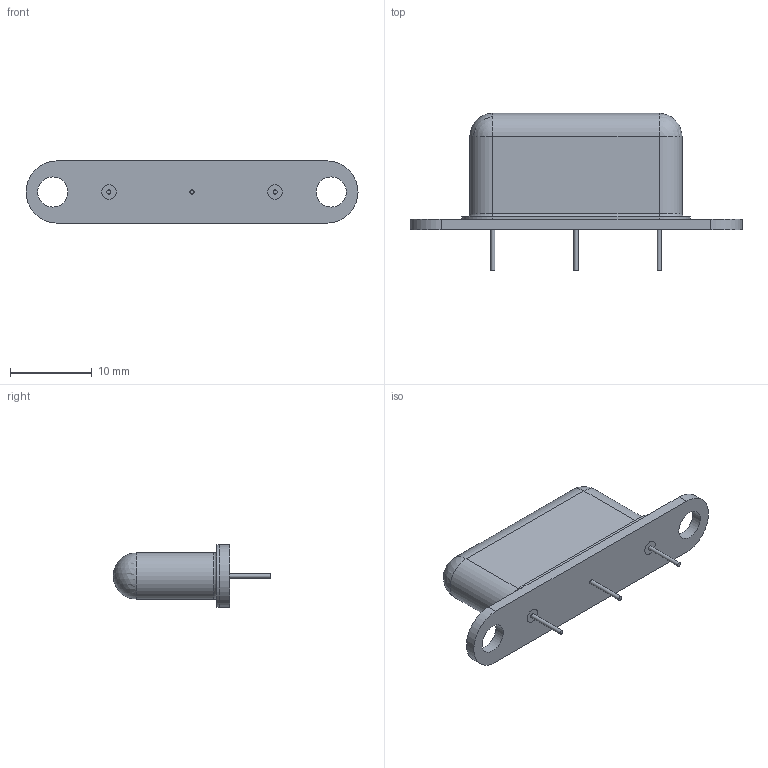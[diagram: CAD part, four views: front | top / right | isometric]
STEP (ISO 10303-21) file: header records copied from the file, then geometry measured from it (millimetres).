
FILE_DESCRIPTION (( 'STEP AP214' ), '1' );
FILE_NAME ('0703-1602-99.STEP', '2023-04-10T15:44:14', ( '' ), ( '' ), 'SwSTEP 2.0', 'SolidWorks 2022', '' );
FILE_SCHEMA (( 'AUTOMOTIVE_DESIGN' ));
Length unit declared in the file: inch
Products named in the file (1): 0703-1602-99
Bounding box: 40.59 x 19.25 x 7.62 mm (x, y, z)
Volume: 2086.8 mm3; surface area: 1392.7 mm2
Topology: 1 solids, 1 shells, 36 faces, 74 edges, 41 vertices
Faces by surface type: plane 18, cylinder 14, sphere 2, torus 2
Full cylindrical faces by diameter (mm): 0.508 x3, 3.683 x2
Entity records: 950 total; most frequent: DIRECTION 170, CARTESIAN_POINT 141, ORIENTED_EDGE 128, AXIS2_PLACEMENT_3D 69, EDGE_CURVE 64, EDGE_LOOP 50, FACE_OUTER_BOUND 41, VERTEX_POINT 40
